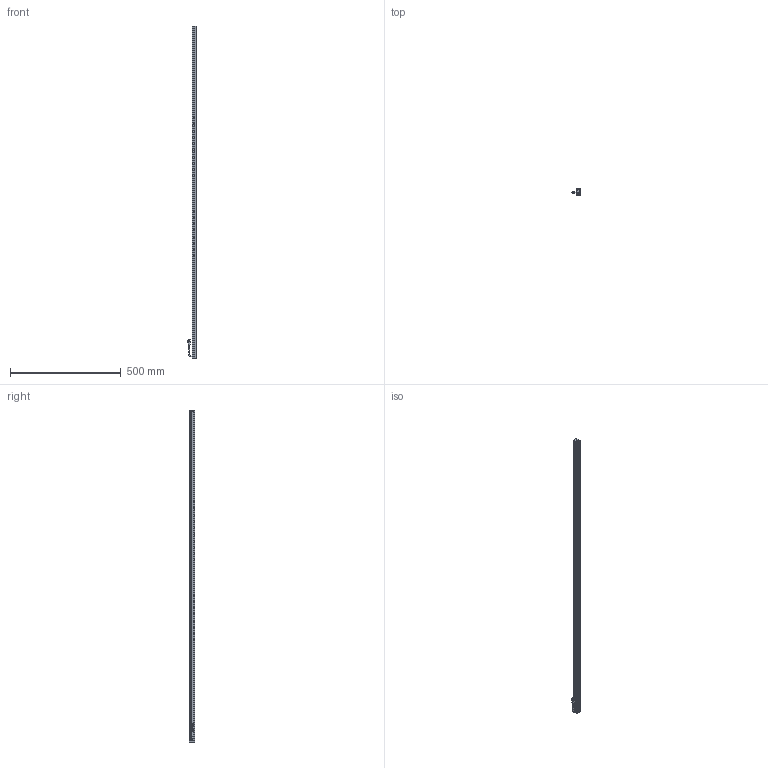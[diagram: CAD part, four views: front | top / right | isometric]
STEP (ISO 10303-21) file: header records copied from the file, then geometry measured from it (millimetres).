
FILE_DESCRIPTION (( 'STEP AP203' ), '1' );
FILE_NAME ('CK-BL149718.STEP', '2025-12-27T01:51:49', ( '' ), ( '' ), 'SwSTEP 2.0', 'SolidWorks 2022', '' );
FILE_SCHEMA (( 'CONFIG_CONTROL_DESIGN' ));
Length unit declared in the file: millimetre
Products named in the file (6): CK-BL149718; CK-BL149718-002A; CK-BL149718-003A; 十字沉头螺丝 M2x10; CK-BL149718-001A; 光源线-01
Assembly tree (9 placements, depth 2):
  CK-BL149718
    CK-BL149718-001A
    CK-BL149718-002A  x2
    CK-BL149718-003A
    光源线-01
    十字沉头螺丝 M2x10  x4
Bounding box: 37.34 x 27 x 1497 mm (x, y, z)
Volume: 328647.8 mm3; surface area: 324541.8 mm2
Topology: 11 solids, 11 shells, 474 faces, 1231 edges, 780 vertices
Faces by surface type: plane 271, cylinder 149, cone 34, bspline 20
Entity records: 12442 total; most frequent: CARTESIAN_POINT 2514, ORIENTED_EDGE 1936, DIRECTION 1916, EDGE_CURVE 968, VECTOR 668, LINE 668, VERTEX_POINT 626, AXIS2_PLACEMENT_3D 624
